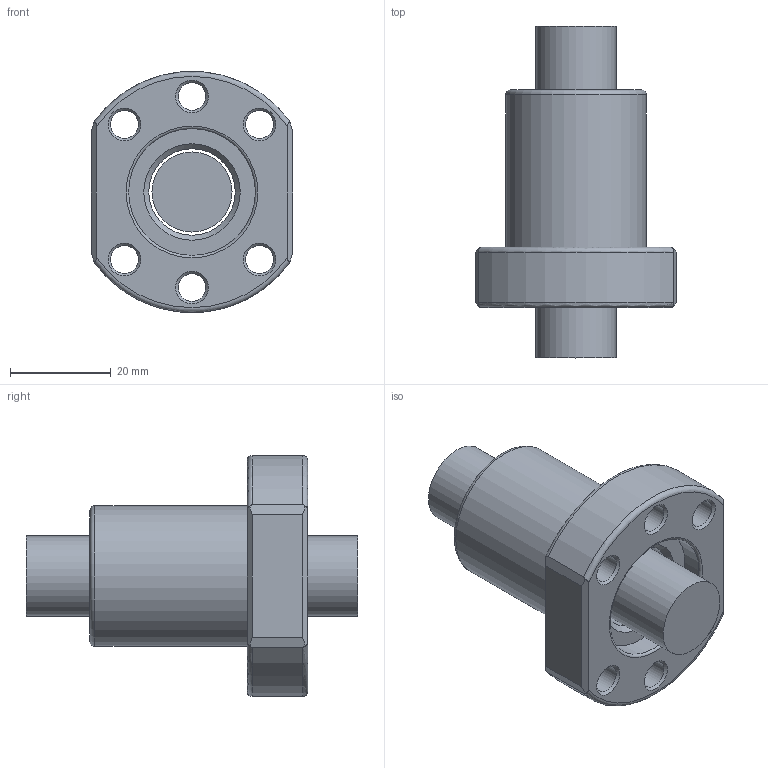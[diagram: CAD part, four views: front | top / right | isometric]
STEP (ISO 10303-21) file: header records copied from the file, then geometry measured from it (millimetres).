
FILE_DESCRIPTION(/* description */ (''),/* implementation_level */ '2;1');
FILE_NAME(/* name */ '1610.prt.step',/* time_stamp */ '2008-12-05T16:31:23+08:00',/* author */ (''),/* organization */ (''),/* preprocessor_version */ 'ST-DEVELOPER v11',/* originating_system */ 'SIEMENS UGS NX 6.0',/* authorisation */ '');
FILE_SCHEMA (('AUTOMOTIVE_DESIGN { 1 0 10303 214 1 1 1 1 }'));
Length unit declared in the file: millimetre
Products named in the file (1): 1610
Bounding box: 40 x 66 x 47.92 mm (x, y, z)
Volume: 38177.1 mm3; surface area: 14274.3 mm2
Topology: 2 solids, 2 shells, 51 faces, 119 edges, 75 vertices
Faces by surface type: plane 17, cone 14, cylinder 13, torus 7
Full cylindrical faces by diameter (mm): 5.5 x6, 15.95 x1, 17.2 x1, 24.5 x1, 25.2 x1, 28 x1
Entity records: 1546 total; most frequent: CARTESIAN_POINT 450, DIRECTION 222, ORIENTED_EDGE 174, AXIS2_PLACEMENT_3D 99, EDGE_LOOP 96, EDGE_CURVE 87, FACE_BOUND 78, VERTEX_POINT 71
